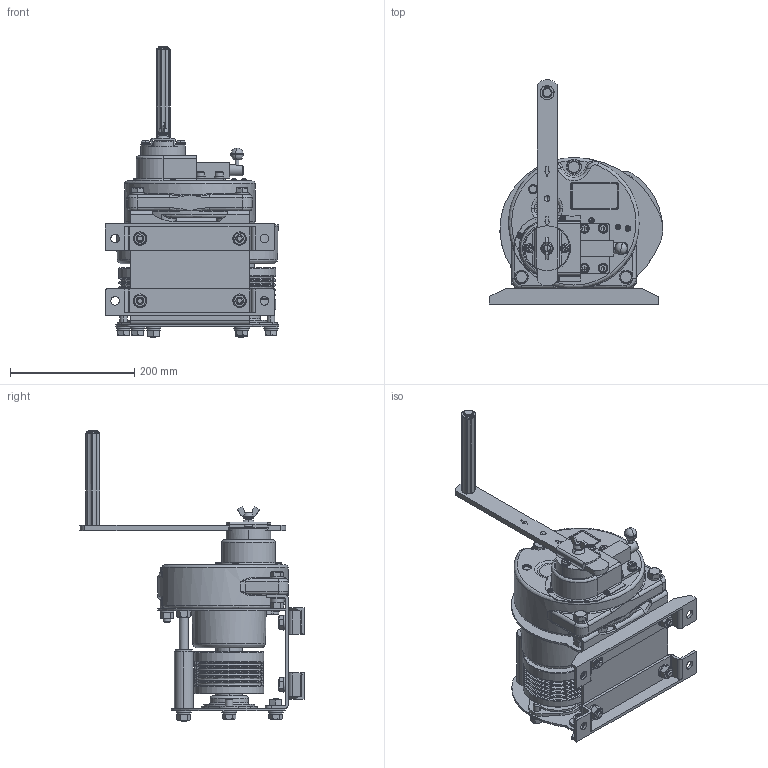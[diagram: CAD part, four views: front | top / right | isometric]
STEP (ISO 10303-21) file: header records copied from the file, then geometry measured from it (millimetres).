
FILE_DESCRIPTION( (''), '2;1');
FILE_NAME ('ME-5-L.stp','2023-09-20T16:36:08',(''),(''),'spGate 19.8.2 (****-****-****-****)','','');
FILE_SCHEMA (('AUTOMOTIVE_DESIGN'));
Length unit declared in the file: millimetre
Products named in the file (6): Assembly; ME-5-L-prt0; ME-5-L-prt1; ME-5-L-prt2; ME-5-L-prt3; ME-5-L-prt4
Assembly tree (5 placements, depth 2):
  Assembly
    ME-5-L-prt0
    ME-5-L-prt1
    ME-5-L-prt2
    ME-5-L-prt3
    ME-5-L-prt4
Bounding box: 279 x 360.43 x 469.2 mm (x, y, z)
Volume: 6931332.5 mm3; surface area: 726842.8 mm2
Topology: 5 solids, 5 shells, 2129 faces, 5309 edges, 3301 vertices
Faces by surface type: plane 1057, cylinder 628, bspline 386, sphere 58
Entity records: 112661 total; most frequent: CARTESIAN_POINT 21221, ORIENTED_EDGE 10550, DIRECTION 9992, COLOUR_RGB 7409, PRESENTATION_STYLE_ASSIGNMENT 7409, STYLED_ITEM 7409, EDGE_CURVE 5275, DRAUGHTING_PRE_DEFINED_CURVE_FONT 5275
